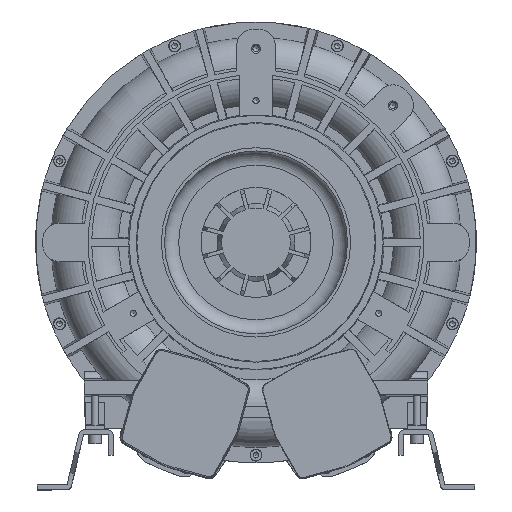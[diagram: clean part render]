
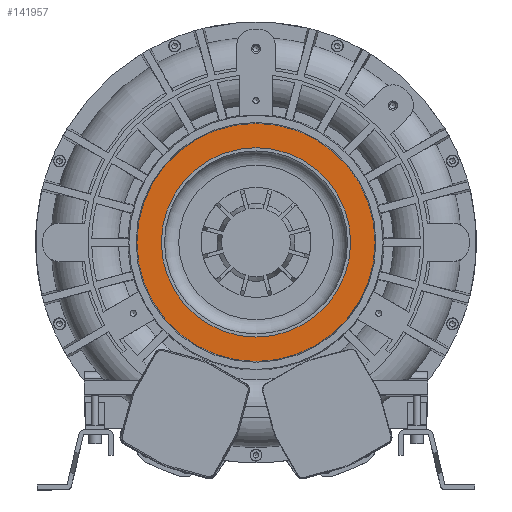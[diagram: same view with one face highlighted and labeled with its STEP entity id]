
A CAD part, top view. The second image highlights one B-rep face of the part: STEP entity #141957.
In plain terms, the highlighted planar face has unit normal (0, 0, 1).
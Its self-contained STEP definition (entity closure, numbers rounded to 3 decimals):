
#18685 = DIRECTION ( 'NONE',  ( 1., 0., 0. ) ) ;
#21363 = FACE_BOUND ( 'NONE', #172360, .T. ) ;
#24936 = PLANE ( 'NONE',  #65799 ) ;
#40891 = ORIENTED_EDGE ( 'NONE', *, *, #85601, .T. ) ;
#48169 = VERTEX_POINT ( 'NONE', #139114 ) ;
#54125 = AXIS2_PLACEMENT_3D ( 'NONE', #146065, #220124, #18685 ) ;
#56592 = FACE_OUTER_BOUND ( 'NONE', #159177, .T. ) ;
#61332 = DIRECTION ( 'NONE',  ( 0., 0., -1. ) ) ;
#65799 = AXIS2_PLACEMENT_3D ( 'NONE', #227557, #61332, #209339 ) ;
#80637 = CARTESIAN_POINT ( 'NONE',  ( -130.194, 0., 215.5 ) ) ;
#85601 = EDGE_CURVE ( 'NONE', #218575, #218575, #88667, .T. ) ;
#88667 = CIRCLE ( 'NONE', #177863, 130.194 ) ;
#121211 = DIRECTION ( 'NONE',  ( 0., 0., 1. ) ) ;
#139114 = CARTESIAN_POINT ( 'NONE',  ( 103.5, 0., 215.5 ) ) ;
#141957 = ADVANCED_FACE ( 'NONE', ( #21363, #56592 ), #24936, .F. ) ;
#146065 = CARTESIAN_POINT ( 'NONE',  ( 0., 0., 215.5 ) ) ;
#159177 = EDGE_LOOP ( 'NONE', ( #40891 ) ) ;
#172360 = EDGE_LOOP ( 'NONE', ( #200295 ) ) ;
#177663 = EDGE_CURVE ( 'NONE', #48169, #48169, #201381, .T. ) ;
#177863 = AXIS2_PLACEMENT_3D ( 'NONE', #191679, #121211, #230484 ) ;
#191679 = CARTESIAN_POINT ( 'NONE',  ( 0., 0., 215.5 ) ) ;
#200295 = ORIENTED_EDGE ( 'NONE', *, *, #177663, .F. ) ;
#201381 = CIRCLE ( 'NONE', #54125, 103.5 ) ;
#209339 = DIRECTION ( 'NONE',  ( -1., 0., 0. ) ) ;
#218575 = VERTEX_POINT ( 'NONE', #80637 ) ;
#220124 = DIRECTION ( 'NONE',  ( 0., 0., 1. ) ) ;
#227557 = CARTESIAN_POINT ( 'NONE',  ( 0., 0., 215.5 ) ) ;
#230484 = DIRECTION ( 'NONE',  ( -1., 0., 0. ) ) ;
